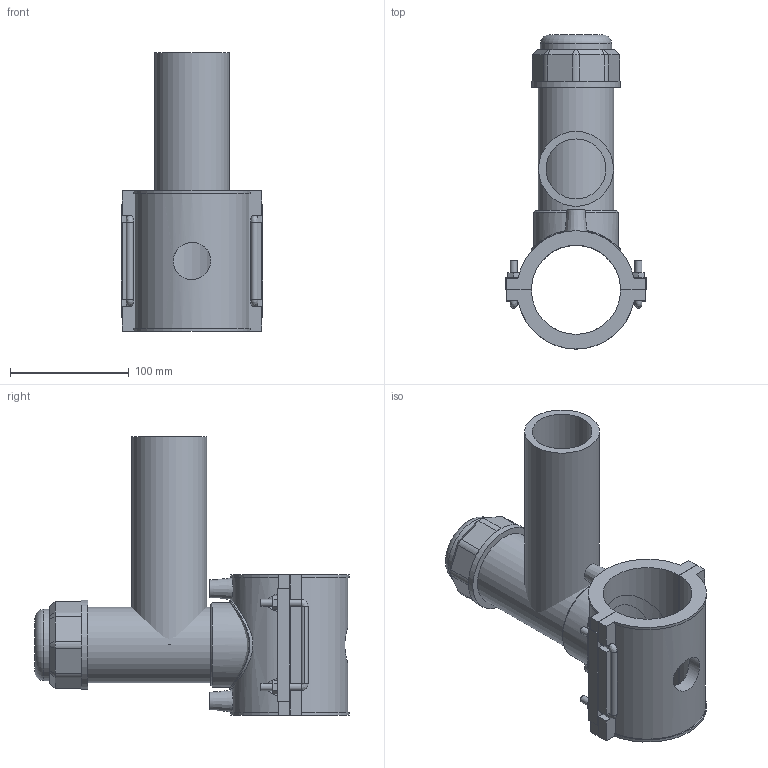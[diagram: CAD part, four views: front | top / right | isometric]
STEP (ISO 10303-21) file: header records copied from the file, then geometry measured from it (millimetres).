
FILE_DESCRIPTION(/* description */ (''),/* implementation_level */ '2;1');
FILE_NAME(/* name */ 'C:\Dropbox\KIMPROJECTS-Inventor 2019\99-16-3568-Processing\ElectroFusion Fittings\4963P4\stp\4963P4075063.stp',/* time_stamp */ '2022-03-17T11:26:36+02:00',/* author */ ('KIM'),/* organization */ (''),/* preprocessor_version */ 'ST-DEVELOPER v17.2',/* originating_system */ 'Autodesk Inventor 2019',/* authorisation */ '');
FILE_SCHEMA (('AUTOMOTIVE_DESIGN { 1 0 10303 214 3 1 1 }'));
Length unit declared in the file: millimetre
Products named in the file (1): 4963P4075063
Bounding box: 119 x 264.23 x 234 mm (x, y, z)
Volume: 951271.6 mm3; surface area: 230864.9 mm2
Topology: 3 solids, 3 shells, 181 faces, 470 edges, 301 vertices
Faces by surface type: plane 108, cylinder 48, cone 15, bspline 9, torus 1
Full cylindrical faces by diameter (mm): 4 x2, 6 x8, 10 x2, 31.36 x1, 50.4 x1, 52.5 x1, 60 x1, 63 x1, 63.75 x1, 71.25 x1, 75 x2
Entity records: 6432 total; most frequent: CARTESIAN_POINT 1945, ORIENTED_EDGE 924, DIRECTION 909, EDGE_CURVE 462, AXIS2_PLACEMENT_3D 307, VERTEX_POINT 301, LINE 295, VECTOR 295
